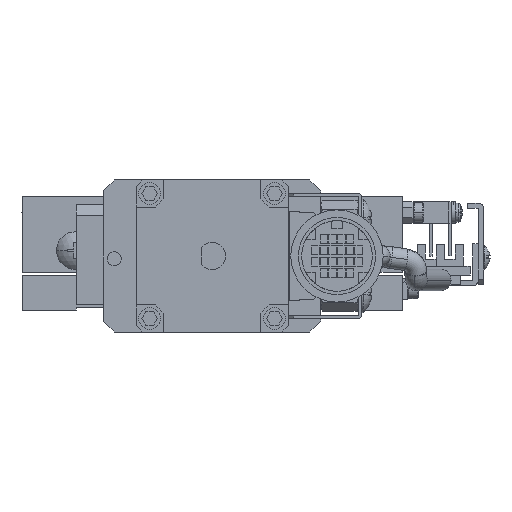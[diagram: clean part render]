
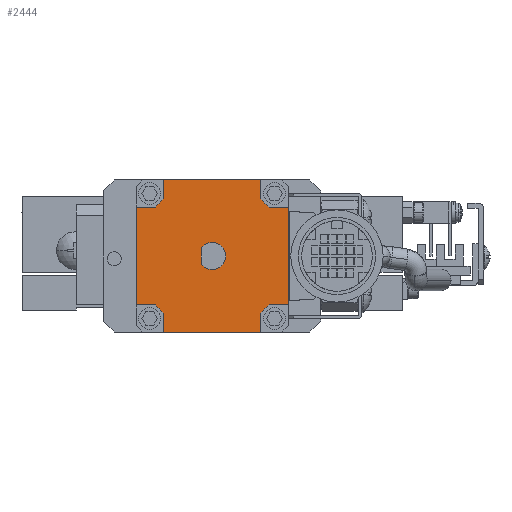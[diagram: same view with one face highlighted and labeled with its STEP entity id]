
A CAD part, left-side view. The second image highlights one B-rep face of the part: STEP entity #2444.
In plain terms, the highlighted planar face has unit normal (-1, 0, 0).
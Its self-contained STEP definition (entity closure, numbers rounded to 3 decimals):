
#190 = LINE ( 'NONE', #976, #50489 ) ;
#671 = CIRCLE ( 'NONE', #44839, 19. ) ;
#802 = CARTESIAN_POINT ( 'NONE',  ( -124.5, -9., 24. ) ) ;
#976 = CARTESIAN_POINT ( 'NONE',  ( -124.5, -9., -4. ) ) ;
#1294 = ORIENTED_EDGE ( 'NONE', *, *, #9944, .F. ) ;
#1929 = CARTESIAN_POINT ( 'NONE',  ( -124.5, -14., 19. ) ) ;
#2413 = PLANE ( 'NONE',  #45318 ) ;
#2444 = ADVANCED_FACE ( 'NONE', ( #7864, #23592 ), #2413, .F. ) ;
#2605 = VERTEX_POINT ( 'NONE', #39954 ) ;
#4206 = ORIENTED_EDGE ( 'NONE', *, *, #43517, .F. ) ;
#4404 = VECTOR ( 'NONE', #51143, 1000. ) ;
#4565 = CARTESIAN_POINT ( 'NONE',  ( -124.5, 9., 20.5 ) ) ;
#5414 = VERTEX_POINT ( 'NONE', #22001 ) ;
#5712 = CARTESIAN_POINT ( 'NONE',  ( -124.5, 2., 11.5 ) ) ;
#5956 = EDGE_CURVE ( 'NONE', #43689, #23696, #27857, .T. ) ;
#6387 = VERTEX_POINT ( 'NONE', #4565 ) ;
#6897 = EDGE_CURVE ( 'NONE', #43689, #23696, #52838, .T. ) ;
#7212 = DIRECTION ( 'NONE',  ( 0., 0., -1. ) ) ;
#7733 = LINE ( 'NONE', #1929, #31326 ) ;
#7864 = FACE_OUTER_BOUND ( 'NONE', #65227, .T. ) ;
#7952 = DIRECTION ( 'NONE',  ( 0., -1., 0. ) ) ;
#8359 = DIRECTION ( 'NONE',  ( 0., 0., -1. ) ) ;
#8640 = VERTEX_POINT ( 'NONE', #802 ) ;
#8971 = CARTESIAN_POINT ( 'NONE',  ( -124.5, 14., 1. ) ) ;
#9080 = ORIENTED_EDGE ( 'NONE', *, *, #14879, .T. ) ;
#9081 = EDGE_CURVE ( 'NONE', #14744, #44287, #12580, .T. ) ;
#9710 = CARTESIAN_POINT ( 'NONE',  ( -124.5, 0., 10. ) ) ;
#9944 = EDGE_CURVE ( 'NONE', #38660, #5414, #7733, .T. ) ;
#9962 = EDGE_CURVE ( 'NONE', #10873, #8640, #14820, .T. ) ;
#10595 = ORIENTED_EDGE ( 'NONE', *, *, #44464, .T. ) ;
#10611 = ORIENTED_EDGE ( 'NONE', *, *, #11377, .T. ) ;
#10846 = CARTESIAN_POINT ( 'NONE',  ( -124.5, 10.5, 19. ) ) ;
#10873 = VERTEX_POINT ( 'NONE', #15017 ) ;
#11166 = CIRCLE ( 'NONE', #50769, 19. ) ;
#11377 = EDGE_CURVE ( 'NONE', #51833, #6387, #26359, .T. ) ;
#11823 = VECTOR ( 'NONE', #11951, 1000. ) ;
#11841 = CARTESIAN_POINT ( 'NONE',  ( -124.5, 9., -0.5 ) ) ;
#11951 = DIRECTION ( 'NONE',  ( 0., 1., 0. ) ) ;
#12580 = LINE ( 'NONE', #45510, #64461 ) ;
#12908 = DIRECTION ( 'NONE',  ( 0., 0., 1. ) ) ;
#13638 = DIRECTION ( 'NONE',  ( 1., 0., 0. ) ) ;
#14003 = EDGE_CURVE ( 'NONE', #38660, #50583, #38523, .T. ) ;
#14128 = DIRECTION ( 'NONE',  ( 0., -1., 0. ) ) ;
#14198 = LINE ( 'NONE', #63745, #48699 ) ;
#14469 = VECTOR ( 'NONE', #61273, 1000. ) ;
#14744 = VERTEX_POINT ( 'NONE', #10846 ) ;
#14820 = LINE ( 'NONE', #57729, #17950 ) ;
#14852 = DIRECTION ( 'NONE',  ( 0., 0.745, 0.667 ) ) ;
#14879 = EDGE_CURVE ( 'NONE', #50583, #10873, #671, .T. ) ;
#15017 = CARTESIAN_POINT ( 'NONE',  ( -124.5, -9., 20.5 ) ) ;
#15073 = CARTESIAN_POINT ( 'NONE',  ( -124.5, -23.164, -13.164 ) ) ;
#15930 = VERTEX_POINT ( 'NONE', #31602 ) ;
#16003 = CARTESIAN_POINT ( 'NONE',  ( -124.5, -9., -4. ) ) ;
#16606 = DIRECTION ( 'NONE',  ( 0., 0., 1. ) ) ;
#16751 = CARTESIAN_POINT ( 'NONE',  ( -124.5, 23.164, 33.164 ) ) ;
#17950 = VECTOR ( 'NONE', #12908, 1000. ) ;
#18812 = CARTESIAN_POINT ( 'NONE',  ( -124.5, 9., -4. ) ) ;
#19274 = ORIENTED_EDGE ( 'NONE', *, *, #50461, .T. ) ;
#19571 = EDGE_CURVE ( 'NONE', #31226, #38678, #50761, .T. ) ;
#20044 = VECTOR ( 'NONE', #51051, 1000. ) ;
#20816 = CARTESIAN_POINT ( 'NONE',  ( -124.5, 9., 24. ) ) ;
#20843 = CARTESIAN_POINT ( 'NONE',  ( -124.5, 2., 8.5 ) ) ;
#21599 = DIRECTION ( 'NONE',  ( 1., 0., 0. ) ) ;
#21655 = CARTESIAN_POINT ( 'NONE',  ( -124.5, 14., 1. ) ) ;
#22001 = CARTESIAN_POINT ( 'NONE',  ( -124.5, -14., 1. ) ) ;
#22031 = DIRECTION ( 'NONE',  ( 0., -0.745, -0.667 ) ) ;
#22152 = ORIENTED_EDGE ( 'NONE', *, *, #46378, .F. ) ;
#23592 = FACE_BOUND ( 'NONE', #42471, .T. ) ;
#23696 = VERTEX_POINT ( 'NONE', #20843 ) ;
#23925 = VECTOR ( 'NONE', #7212, 1000. ) ;
#24934 = CIRCLE ( 'NONE', #51059, 19. ) ;
#25090 = LINE ( 'NONE', #35070, #56515 ) ;
#25344 = VERTEX_POINT ( 'NONE', #47299 ) ;
#25589 = DIRECTION ( 'NONE',  ( 0., 1., 0. ) ) ;
#25999 = ORIENTED_EDGE ( 'NONE', *, *, #9081, .T. ) ;
#26175 = AXIS2_PLACEMENT_3D ( 'NONE', #16751, #27544, #22031 ) ;
#26359 = LINE ( 'NONE', #61613, #20044 ) ;
#26685 = DIRECTION ( 'NONE',  ( 0., 0.667, -0.745 ) ) ;
#27544 = DIRECTION ( 'NONE',  ( 1., 0., 0. ) ) ;
#27857 = LINE ( 'NONE', #5712, #14469 ) ;
#27963 = ORIENTED_EDGE ( 'NONE', *, *, #19571, .F. ) ;
#28493 = CARTESIAN_POINT ( 'NONE',  ( -124.5, 2., 11.5 ) ) ;
#31226 = VERTEX_POINT ( 'NONE', #35060 ) ;
#31326 = VECTOR ( 'NONE', #37928, 1000. ) ;
#31602 = CARTESIAN_POINT ( 'NONE',  ( -124.5, -10.5, 1. ) ) ;
#31749 = ORIENTED_EDGE ( 'NONE', *, *, #64807, .T. ) ;
#31945 = CARTESIAN_POINT ( 'NONE',  ( -124.5, -23.164, 33.164 ) ) ;
#33595 = VECTOR ( 'NONE', #16606, 1000. ) ;
#33928 = VERTEX_POINT ( 'NONE', #11841 ) ;
#35060 = CARTESIAN_POINT ( 'NONE',  ( -124.5, -9., -4. ) ) ;
#35070 = CARTESIAN_POINT ( 'NONE',  ( -124.5, 9., 24. ) ) ;
#35229 = VERTEX_POINT ( 'NONE', #65190 ) ;
#37286 = CARTESIAN_POINT ( 'NONE',  ( -124.5, 9., -0.5 ) ) ;
#37387 = ORIENTED_EDGE ( 'NONE', *, *, #14003, .T. ) ;
#37928 = DIRECTION ( 'NONE',  ( 0., 0., -1. ) ) ;
#38523 = LINE ( 'NONE', #42428, #11823 ) ;
#38650 = CARTESIAN_POINT ( 'NONE',  ( -124.5, -29.698, 39.698 ) ) ;
#38660 = VERTEX_POINT ( 'NONE', #49296 ) ;
#38678 = VERTEX_POINT ( 'NONE', #18812 ) ;
#39564 = LINE ( 'NONE', #37286, #23925 ) ;
#39954 = CARTESIAN_POINT ( 'NONE',  ( -124.5, 14., 1. ) ) ;
#40087 = DIRECTION ( 'NONE',  ( 0., -1., 0. ) ) ;
#40277 = LINE ( 'NONE', #8971, #57634 ) ;
#42428 = CARTESIAN_POINT ( 'NONE',  ( -124.5, -14., 19. ) ) ;
#42471 = EDGE_LOOP ( 'NONE', ( #51677, #49054 ) ) ;
#43437 = DIRECTION ( 'NONE',  ( 0., -1., 0. ) ) ;
#43517 = EDGE_CURVE ( 'NONE', #2605, #44287, #44566, .T. ) ;
#43689 = VERTEX_POINT ( 'NONE', #28493 ) ;
#43713 = ORIENTED_EDGE ( 'NONE', *, *, #9962, .T. ) ;
#44197 = EDGE_CURVE ( 'NONE', #2605, #35229, #40277, .T. ) ;
#44287 = VERTEX_POINT ( 'NONE', #44959 ) ;
#44464 = EDGE_CURVE ( 'NONE', #35229, #33928, #11166, .T. ) ;
#44566 = LINE ( 'NONE', #21655, #33595 ) ;
#44839 = AXIS2_PLACEMENT_3D ( 'NONE', #31945, #21599, #26685 ) ;
#44959 = CARTESIAN_POINT ( 'NONE',  ( -124.5, 14., 19. ) ) ;
#45318 = AXIS2_PLACEMENT_3D ( 'NONE', #38650, #13638, #8359 ) ;
#45510 = CARTESIAN_POINT ( 'NONE',  ( -124.5, 10.5, 19. ) ) ;
#45902 = ORIENTED_EDGE ( 'NONE', *, *, #44197, .T. ) ;
#46378 = EDGE_CURVE ( 'NONE', #51833, #8640, #25090, .T. ) ;
#47299 = CARTESIAN_POINT ( 'NONE',  ( -124.5, -9., -0.5 ) ) ;
#48509 = AXIS2_PLACEMENT_3D ( 'NONE', #9710, #59611, #14128 ) ;
#48699 = VECTOR ( 'NONE', #7952, 1000. ) ;
#49054 = ORIENTED_EDGE ( 'NONE', *, *, #6897, .T. ) ;
#49296 = CARTESIAN_POINT ( 'NONE',  ( -124.5, -14., 19. ) ) ;
#50461 = EDGE_CURVE ( 'NONE', #25344, #15930, #24934, .T. ) ;
#50489 = VECTOR ( 'NONE', #55488, 1000. ) ;
#50578 = EDGE_CURVE ( 'NONE', #31226, #25344, #190, .T. ) ;
#50583 = VERTEX_POINT ( 'NONE', #55702 ) ;
#50761 = LINE ( 'NONE', #16003, #4404 ) ;
#50769 = AXIS2_PLACEMENT_3D ( 'NONE', #60826, #61968, #52062 ) ;
#51051 = DIRECTION ( 'NONE',  ( 0., 0., -1. ) ) ;
#51059 = AXIS2_PLACEMENT_3D ( 'NONE', #15073, #60114, #14852 ) ;
#51143 = DIRECTION ( 'NONE',  ( 0., 1., 0. ) ) ;
#51677 = ORIENTED_EDGE ( 'NONE', *, *, #5956, .F. ) ;
#51833 = VERTEX_POINT ( 'NONE', #20816 ) ;
#52034 = EDGE_CURVE ( 'NONE', #15930, #5414, #14198, .T. ) ;
#52062 = DIRECTION ( 'NONE',  ( 0., -0.667, 0.745 ) ) ;
#52838 = CIRCLE ( 'NONE', #48509, 2.5 ) ;
#54889 = ORIENTED_EDGE ( 'NONE', *, *, #52034, .T. ) ;
#55488 = DIRECTION ( 'NONE',  ( 0., 0., 1. ) ) ;
#55702 = CARTESIAN_POINT ( 'NONE',  ( -124.5, -10.5, 19. ) ) ;
#56064 = ORIENTED_EDGE ( 'NONE', *, *, #56676, .T. ) ;
#56515 = VECTOR ( 'NONE', #40087, 1000. ) ;
#56676 = EDGE_CURVE ( 'NONE', #33928, #38678, #39564, .T. ) ;
#57634 = VECTOR ( 'NONE', #43437, 1000. ) ;
#57729 = CARTESIAN_POINT ( 'NONE',  ( -124.5, -9., 20.5 ) ) ;
#59514 = ORIENTED_EDGE ( 'NONE', *, *, #50578, .T. ) ;
#59611 = DIRECTION ( 'NONE',  ( 1., 0., 0. ) ) ;
#60114 = DIRECTION ( 'NONE',  ( 1., 0., 0. ) ) ;
#60826 = CARTESIAN_POINT ( 'NONE',  ( -124.5, 23.164, -13.164 ) ) ;
#61273 = DIRECTION ( 'NONE',  ( 0., 0., -1. ) ) ;
#61613 = CARTESIAN_POINT ( 'NONE',  ( -124.5, 9., 24. ) ) ;
#61968 = DIRECTION ( 'NONE',  ( 1., 0., 0. ) ) ;
#63745 = CARTESIAN_POINT ( 'NONE',  ( -124.5, -10.5, 1. ) ) ;
#64461 = VECTOR ( 'NONE', #25589, 1000. ) ;
#64807 = EDGE_CURVE ( 'NONE', #6387, #14744, #64862, .T. ) ;
#64862 = CIRCLE ( 'NONE', #26175, 19. ) ;
#65190 = CARTESIAN_POINT ( 'NONE',  ( -124.5, 10.5, 1. ) ) ;
#65227 = EDGE_LOOP ( 'NONE', ( #45902, #10595, #56064, #27963, #59514, #19274, #54889, #1294, #37387, #9080, #43713, #22152, #10611, #31749, #25999, #4206 ) ) ;
